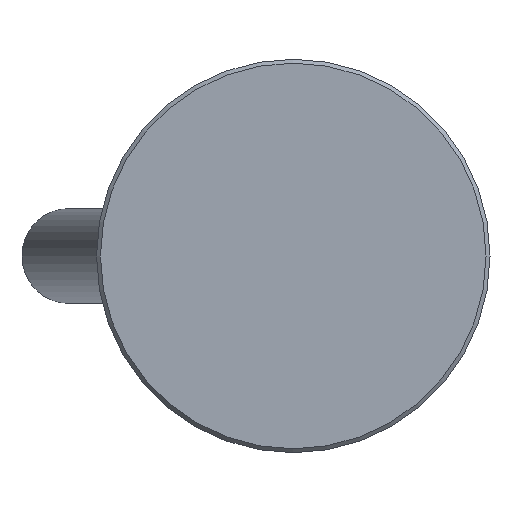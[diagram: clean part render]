
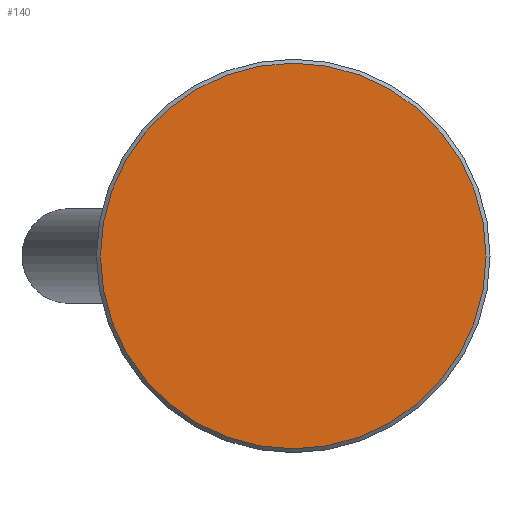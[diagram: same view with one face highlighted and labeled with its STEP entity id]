
A CAD part, front view. The second image highlights one B-rep face of the part: STEP entity #140.
In plain terms, the highlighted planar face has unit normal (0, -1, 0).
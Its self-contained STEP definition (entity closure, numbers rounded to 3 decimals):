
#140 = ADVANCED_FACE( '', ( #291 ), #292, .F. );
#291 = FACE_OUTER_BOUND( '', #487, .T. );
#292 = PLANE( '', #488 );
#487 = EDGE_LOOP( '', ( #671 ) );
#488 = AXIS2_PLACEMENT_3D( '', #672, #673, #674 );
#671 = ORIENTED_EDGE( '', *, *, #1092, .T. );
#672 = CARTESIAN_POINT( '', ( 24.5, 0., 0. ) );
#673 = DIRECTION( '', ( 0., 1., 0. ) );
#674 = DIRECTION( '', ( 0., 0., 1. ) );
#1092 = EDGE_CURVE( '', #1248, #1248, #1249, .T. );
#1248 = VERTEX_POINT( '', #1465 );
#1249 = CIRCLE( '', #1466, 24.5 );
#1465 = CARTESIAN_POINT( '', ( 0., 0., -24.5 ) );
#1466 = AXIS2_PLACEMENT_3D( '', #1965, #1966, #1967 );
#1965 = CARTESIAN_POINT( '', ( 0., 0., 0. ) );
#1966 = DIRECTION( '', ( 0., -1., 0. ) );
#1967 = DIRECTION( '', ( 0., 0., -1. ) );
